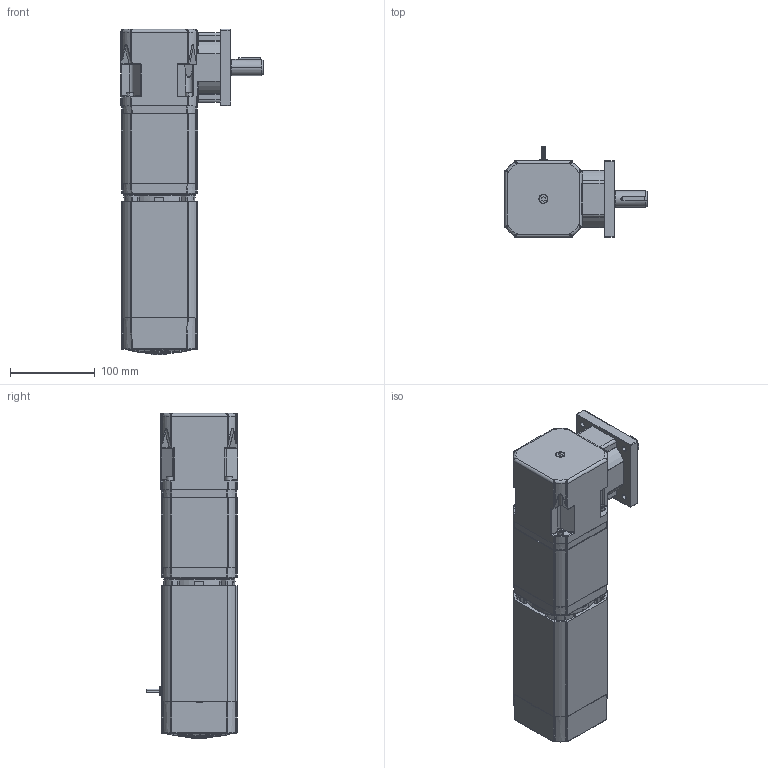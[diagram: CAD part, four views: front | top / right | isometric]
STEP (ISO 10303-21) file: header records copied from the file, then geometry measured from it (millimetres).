
FILE_DESCRIPTION (( 'STEP AP214' ), '1' );
FILE_NAME ('AC8060FC-RP7300_2S.STEP', '2013-08-28T20:12:16', ( '' ), ( '' ), 'SwSTEP 2.0', 'SolidWorks 2013', '' );
FILE_SCHEMA (( 'AUTOMOTIVE_DESIGN' ));
Length unit declared in the file: inch
Products named in the file (1): AC8060FC-RP7300_2S
Bounding box: 168.09 x 107.92 x 384.2 mm (x, y, z)
Surface area: 274165.7 mm2 (no closed solid volume)
Topology: 0 solids, 40 shells, 1378 faces, 4458 edges, 2972 vertices
Faces by surface type: plane 655, cylinder 415, bspline 122, cone 93, torus 65, sphere 28
Entity records: 70677 total; most frequent: CARTESIAN_POINT 14351, DIRECTION 8614, ORIENTED_EDGE 7144, EDGE_CURVE 4395, AXIS2_PLACEMENT_3D 3381, VERTEX_POINT 2972, CIRCLE 2124, VECTOR 1852
